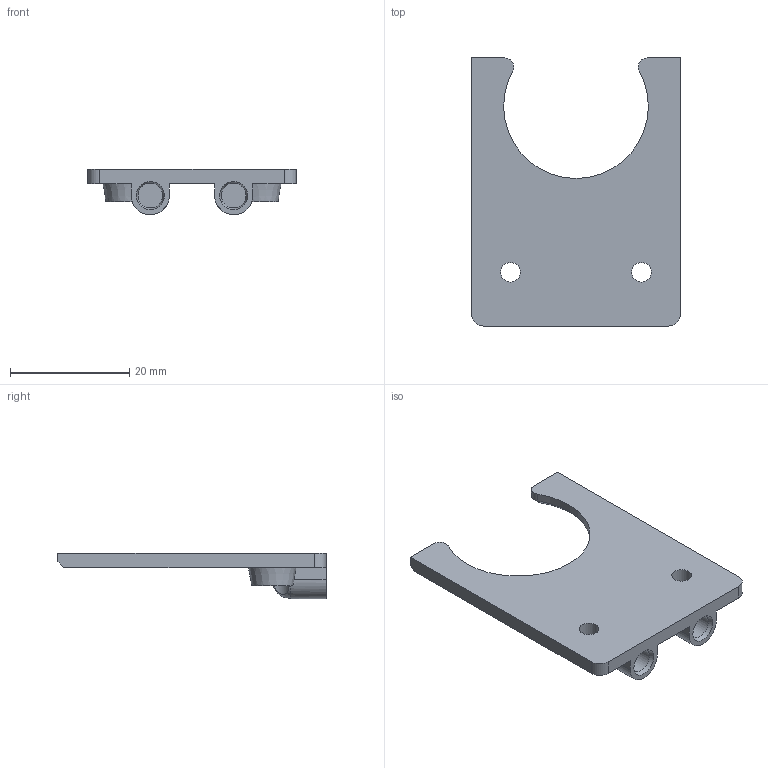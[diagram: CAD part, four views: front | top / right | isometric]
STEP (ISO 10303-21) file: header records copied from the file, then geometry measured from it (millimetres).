
FILE_DESCRIPTION(/* description */ (''),/* implementation_level */ '2;1');
FILE_NAME(/* name */ 'HMG7-E3DV6-RevoSix-BMO-Dragon-Collar-Skirt.step',/* time_stamp */ '2022-11-01T21:23:42-07:00',/* author */ (''),/* organization */ (''),/* preprocessor_version */ 'ST-DEVELOPER v19.2',/* originating_system */ 'Autodesk Translation Framework v11.17.0.187',/* authorisation */ '');
FILE_SCHEMA (('AUTOMOTIVE_DESIGN { 1 0 10303 214 3 1 1 }'));
Length unit declared in the file: millimetre
Products named in the file (3): GEN_7_1.5; E3D Volcano; E3D_V6_Skirt
Assembly tree (2 placements, depth 3):
  GEN_7_1.5
    E3D Volcano
      E3D_V6_Skirt
Bounding box: 35 x 45.03 x 7.6 mm (x, y, z)
Volume: 3107 mm3; surface area: 3283.5 mm2
Topology: 1 solids, 1 shells, 47 faces, 121 edges, 78 vertices
Faces by surface type: plane 21, cylinder 17, cone 7, bspline 2
Full cylindrical faces by diameter (mm): 3.3 x2, 4.15 x2, 6 x2
Entity records: 1605 total; most frequent: CARTESIAN_POINT 363, DIRECTION 252, ORIENTED_EDGE 242, EDGE_CURVE 121, AXIS2_PLACEMENT_3D 95, VERTEX_POINT 78, LINE 62, VECTOR 62
